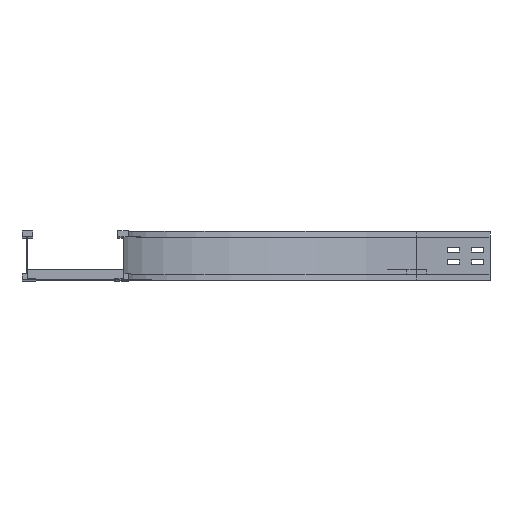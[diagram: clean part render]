
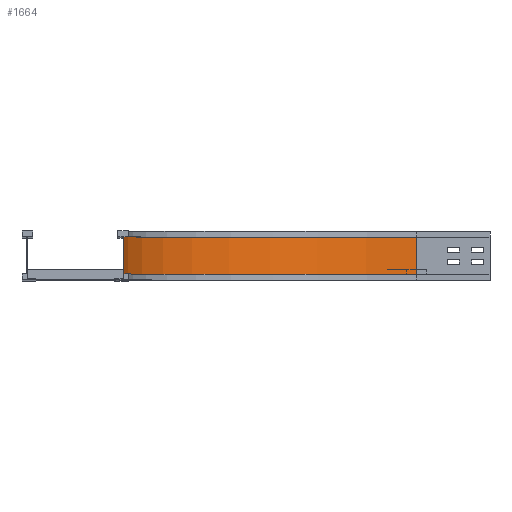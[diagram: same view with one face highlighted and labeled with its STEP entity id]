
A CAD part, top view. The second image highlights one B-rep face of the part: STEP entity #1664.
In plain terms, the highlighted cylindrical face has radius 600 mm (diameter 1200 mm), a partial arc.
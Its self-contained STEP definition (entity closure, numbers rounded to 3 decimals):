
#93 = EDGE_CURVE ( 'NONE', #3050, #970, #2223, .T. ) ;
#422 = DIRECTION ( 'NONE',  ( 0., 1., 0. ) ) ;
#620 = AXIS2_PLACEMENT_3D ( 'NONE', #4644, #3974, #4357 ) ;
#651 = DIRECTION ( 'NONE',  ( -1., 0., 0. ) ) ;
#970 = VERTEX_POINT ( 'NONE', #3339 ) ;
#1195 = CARTESIAN_POINT ( 'NONE',  ( -9., 12., -150. ) ) ;
#1285 = EDGE_CURVE ( 'NONE', #2938, #1690, #2493, .T. ) ;
#1422 = DIRECTION ( 'NONE',  ( 0., 1., 0. ) ) ;
#1490 = VECTOR ( 'NONE', #422, 1000. ) ;
#1664 = ADVANCED_FACE ( 'NONE', ( #2506 ), #4717, .F. ) ;
#1667 = EDGE_CURVE ( 'NONE', #3050, #2938, #4363, .T. ) ;
#1690 = VERTEX_POINT ( 'NONE', #4267 ) ;
#2223 = LINE ( 'NONE', #2246, #1490 ) ;
#2246 = CARTESIAN_POINT ( 'NONE',  ( -9., 12., -150. ) ) ;
#2377 = AXIS2_PLACEMENT_3D ( 'NONE', #2530, #2860, #651 ) ;
#2451 = CARTESIAN_POINT ( 'NONE',  ( 591., 12., -750. ) ) ;
#2480 = CARTESIAN_POINT ( 'NONE',  ( 591., 88., -150. ) ) ;
#2482 = ORIENTED_EDGE ( 'NONE', *, *, #1285, .T. ) ;
#2493 = LINE ( 'NONE', #2451, #3972 ) ;
#2506 = FACE_OUTER_BOUND ( 'NONE', #3090, .T. ) ;
#2530 = CARTESIAN_POINT ( 'NONE',  ( 591., 12., -150. ) ) ;
#2640 = AXIS2_PLACEMENT_3D ( 'NONE', #2480, #2788, #4260 ) ;
#2788 = DIRECTION ( 'NONE',  ( 0., -1., 0. ) ) ;
#2860 = DIRECTION ( 'NONE',  ( 0., -1., 0. ) ) ;
#2938 = VERTEX_POINT ( 'NONE', #2994 ) ;
#2994 = CARTESIAN_POINT ( 'NONE',  ( 591., 12., -750. ) ) ;
#3050 = VERTEX_POINT ( 'NONE', #1195 ) ;
#3090 = EDGE_LOOP ( 'NONE', ( #4131, #4610, #4681, #2482 ) ) ;
#3339 = CARTESIAN_POINT ( 'NONE',  ( -9., 88., -150. ) ) ;
#3489 = CIRCLE ( 'NONE', #2640, 600. ) ;
#3972 = VECTOR ( 'NONE', #1422, 1000. ) ;
#3974 = DIRECTION ( 'NONE',  ( 0., -1., 0. ) ) ;
#4131 = ORIENTED_EDGE ( 'NONE', *, *, #4475, .F. ) ;
#4260 = DIRECTION ( 'NONE',  ( -1., 0., 0. ) ) ;
#4267 = CARTESIAN_POINT ( 'NONE',  ( 591., 88., -750. ) ) ;
#4357 = DIRECTION ( 'NONE',  ( 0., 0., -1. ) ) ;
#4363 = CIRCLE ( 'NONE', #2377, 600. ) ;
#4475 = EDGE_CURVE ( 'NONE', #970, #1690, #3489, .T. ) ;
#4610 = ORIENTED_EDGE ( 'NONE', *, *, #93, .F. ) ;
#4644 = CARTESIAN_POINT ( 'NONE',  ( 591., 0., -150. ) ) ;
#4681 = ORIENTED_EDGE ( 'NONE', *, *, #1667, .T. ) ;
#4717 = CYLINDRICAL_SURFACE ( 'NONE', #620, 600. ) ;
